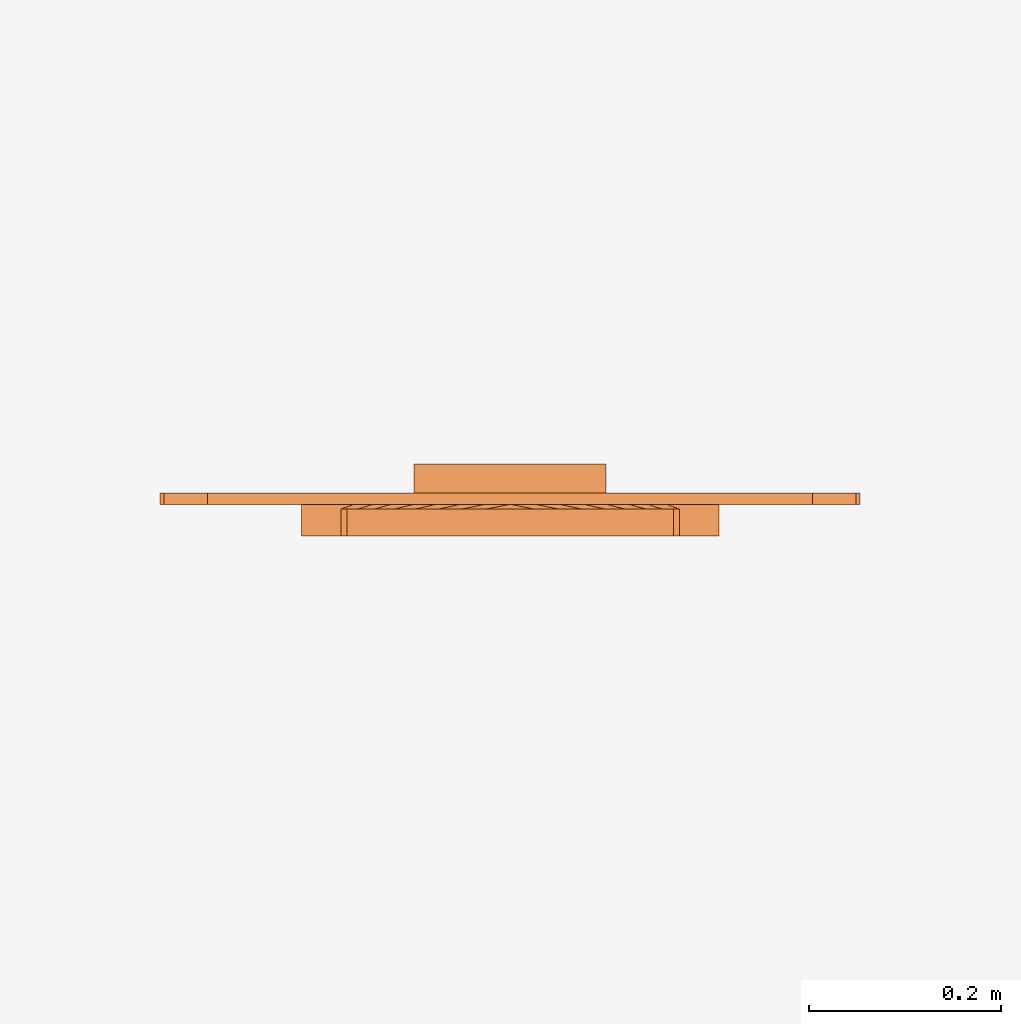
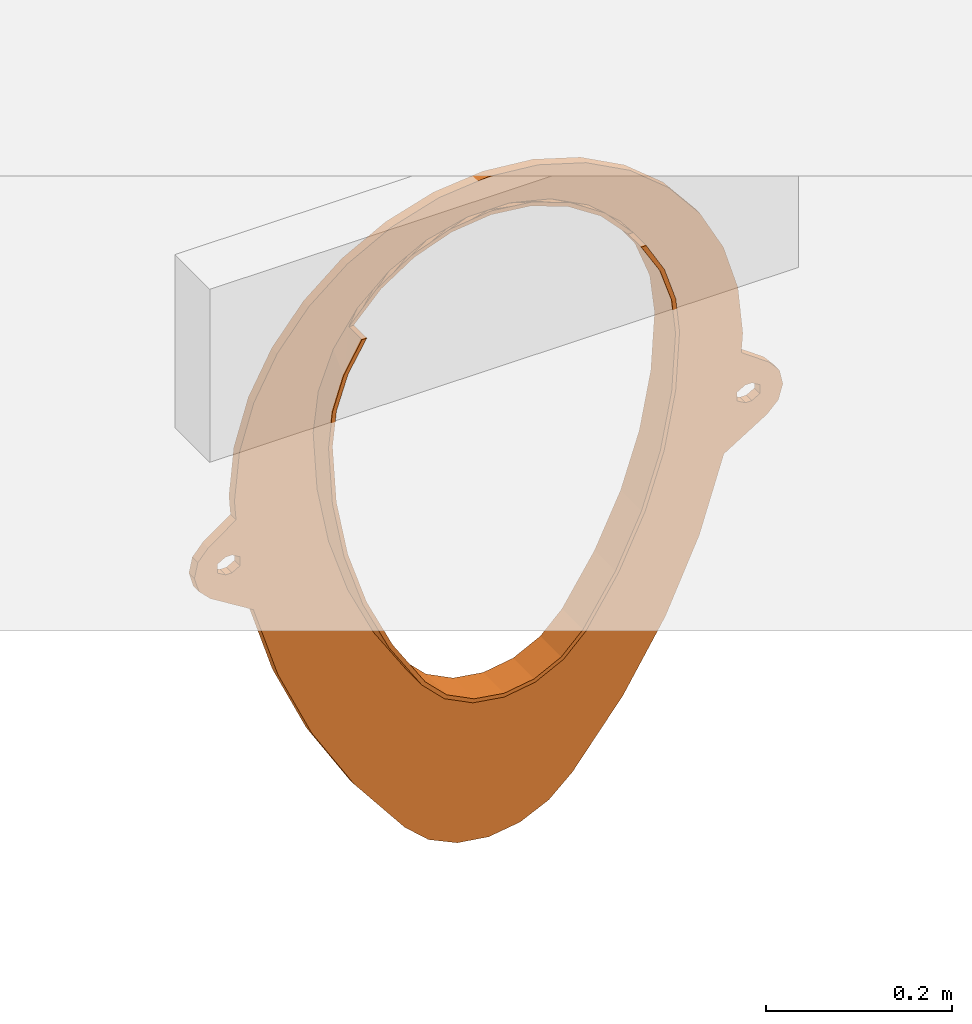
# One storey, part 2 of 2: 1 proxy.
"""IFC2X3 building model written with IfcOpenShell, lengths in millimetres."""

from ifc_helpers import new_model, entity, si_unit, converted_unit, direction, frame, origin, place, context, subcontext, project, spatial, faceted_brep, source, transform, mapped, element, save


model = new_model("IFC2X3")

# Units and contexts
model_context = context("Model", 3, precision=1e-06, world=origin(), true_north=direction((2.0, 6.12303176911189e-17, 1.0)))
context_of_model = context(None, 3, precision=1e-06, world=origin(), true_north=direction((2.0, 6.12303176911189e-17, 1.0)))
body_context = subcontext(model_context, "Body", "Model", "MODEL_VIEW")
ifc_project = project(units=[si_unit("LENGTHUNIT", "METRE", prefix="MILLI"), si_unit("AREAUNIT", "SQUARE_METRE", prefix="MILLI"), si_unit("VOLUMEUNIT", "CUBIC_METRE", prefix="MILLI"), converted_unit("PLANEANGLEUNIT", "DEGREE", entity("IfcRatioMeasure", 0.0174532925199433), si_unit("PLANEANGLEUNIT", "RADIAN"), dimensions=[0, 0, 0, 0, 0, 0, 0]), si_unit("TIMEUNIT", "SECOND")], contexts=[model_context, context_of_model])

# Site, building, storey
site_placement = place(None, origin())
site = spatial("IfcSite", under=ifc_project, at=site_placement, Name="Default", CompositionType="ELEMENT")
building_placement = place(site_placement, origin())
building = spatial("IfcBuilding", under=site, at=building_placement, CompositionType="ELEMENT")
storey_placement = place(building_placement, origin())
storey = spatial("IfcBuildingStorey", under=building, at=storey_placement, Name="Level 1", CompositionType="ELEMENT", Elevation=0.0)

# Proxy
shared_shape = source(origin(), body_context, "Body", "Brep", [
    faceted_brep([(674.274420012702, 45.0, 464.744486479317), (674.274420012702, 33.0, 464.744486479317), (684.314178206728, 33.0, 458.948029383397), (684.314178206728, 45.0, 458.948029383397), (674.274420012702, 45.0, 476.337400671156), (674.274420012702, 33.0, 476.337400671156), (684.314178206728, 33.0, 482.133857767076), (684.314178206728, 45.0, 482.133857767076), (30.1097108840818, 45.0, 464.744486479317), (30.1097108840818, 33.0, 464.744486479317), (40.1494690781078, 33.0, 458.948029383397), (40.1494690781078, 45.0, 458.948029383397), (30.1097108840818, 45.0, 476.337400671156), (30.1097108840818, 33.0, 476.337400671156), (40.1494690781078, 33.0, 482.133857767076), (40.1494690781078, 45.0, 482.133857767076), (14.1686551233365, 33.0, 441.490267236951), (7.16468628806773, 33.0, 448.509967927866), (11.5117162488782, 45.0, 444.153173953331), (21.1726239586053, 45.0, 434.470566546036), (4.37997926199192, 45.0, 458.027172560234), (7.16468628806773, 45.0, 448.509967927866), (4.37997926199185, 33.0, 458.027172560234), (1.59527223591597, 33.0, 467.544377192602), (1.59527223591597, 45.0, 467.544377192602), (12.3242171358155, 33.0, 494.410644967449), (18.8224679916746, 33.0, 501.900939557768), (18.8224679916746, 45.0, 501.900939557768), (9.85912139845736, 45.0, 491.569219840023), (5.82596627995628, 33.0, 486.920350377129), (5.82596627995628, 45.0, 486.920350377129), (3.71061925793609, 45.0, 477.232363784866), (3.71061925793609, 33.0, 477.232363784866), (21.1726239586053, 33.0, 434.470566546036), (172.635398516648, 45.0, 459.542716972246), (195.977715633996, 45.0, 388.746238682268), (74.650996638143, 45.0, 401.247982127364), (58.1892272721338, 45.0, 464.744486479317), (105.09309146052, 45.0, 305.570147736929), (89.8720440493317, 45.0, 353.409064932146), (228.125576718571, 45.0, 321.489119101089), (48.1494690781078, 45.0, 458.948029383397), (58.1892272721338, 45.0, 476.337400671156), (158.476943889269, 45.0, 532.731126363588), (146.952706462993, 45.0, 214.308207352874), (126.022898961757, 45.0, 259.939177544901), (262.274941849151, 45.0, 50.3728583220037), (223.211703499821, 45.0, 99.271568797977), (266.231823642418, 45.0, 154.595272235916), (291.59791997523, 45.0, 24.0683522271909), (266.231823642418, 45.0, 159.595272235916), (199.607572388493, 45.0, 128.818826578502), (173.280139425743, 45.0, 171.563516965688), (327.25985005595, 45.0, 7.33542570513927), (366.231823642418, 45.0, 1.59527223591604), (268.557948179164, 45.0, 258.861421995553), (295.384185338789, 45.0, 232.419334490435), (329.019738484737, 45.0, 215.464082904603), (366.231823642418, 45.0, 209.625272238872), (466.231823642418, 45.0, 159.595272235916), (405.203797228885, 45.0, 7.335425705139), (466.231823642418, 45.0, 154.595272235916), (440.865727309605, 45.0, 24.0683522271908), (53.17934072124, 45.0, 526.456464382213), (48.1494690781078, 45.0, 482.133857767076), (153.731823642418, 45.0, 607.125272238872), (51.2318236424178, 45.0, 551.595272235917), (57.2844603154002, 45.0, 613.048723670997), (75.2097709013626, 45.0, 672.14055343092), (52.1093623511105, 45.0, 539.018414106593), (159.906687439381, 45.0, 657.979850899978), (104.318895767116, 45.0, 726.599895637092), (178.07241819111, 45.0, 705.878946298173), (143.493187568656, 45.0, 774.333908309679), (207.173289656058, 45.0, 748.038837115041), (191.227200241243, 45.0, 813.508200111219), (245.518064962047, 45.0, 782.009343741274), (245.686542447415, 45.0, 842.617324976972), (290.878285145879, 45.0, 805.816223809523), (340.617779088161, 45.0, 818.075907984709), (304.778372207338, 45.0, 860.542635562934), (366.231823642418, 45.0, 866.595272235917), (532.856074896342, 45.0, 128.818826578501), (501.522390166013, 45.0, 89.5958424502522), (470.188705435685, 45.0, 50.3728583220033), (403.443908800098, 45.0, 215.464082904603), (437.079461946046, 45.0, 232.419334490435), (463.905699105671, 45.0, 258.861421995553), (504.338070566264, 45.0, 321.489119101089), (585.510940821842, 45.0, 214.308207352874), (536.485931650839, 45.0, 388.746238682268), (627.370555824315, 45.0, 305.570147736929), (606.440748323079, 45.0, 259.939177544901), (559.183507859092, 45.0, 171.563516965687), (657.812650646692, 45.0, 401.247982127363), (638.836797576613, 45.0, 341.607916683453), (559.828248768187, 45.0, 459.542716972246), (692.314178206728, 45.0, 458.948029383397), (711.29102332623, 45.0, 434.470566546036), (702.353936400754, 45.0, 464.744486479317), (725.298960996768, 45.0, 448.509967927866), (718.294992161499, 45.0, 441.490267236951), (573.986703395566, 45.0, 532.731126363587), (730.86837504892, 45.0, 467.544377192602), (728.083668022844, 45.0, 458.027172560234), (702.353936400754, 45.0, 476.337400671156), (541.236447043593, 45.0, 813.508200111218), (588.97045971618, 45.0, 774.333908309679), (525.290357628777, 45.0, 748.038837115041), (486.945582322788, 45.0, 782.009343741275), (681.231823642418, 45.0, 551.595272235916), (578.731823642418, 45.0, 607.125272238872), (675.179186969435, 45.0, 613.048723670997), (572.556959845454, 45.0, 657.979850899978), (657.253876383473, 45.0, 672.14055343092), (554.391229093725, 45.0, 705.878946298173), (628.14475151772, 45.0, 726.599895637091), (427.685275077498, 45.0, 860.542635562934), (391.845868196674, 45.0, 818.075907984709), (441.585362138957, 45.0, 805.816223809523), (486.777104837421, 45.0, 842.617324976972), (692.314178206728, 45.0, 482.133857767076), (679.284306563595, 45.0, 526.456464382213), (713.641179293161, 45.0, 501.900939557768), (680.354284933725, 45.0, 539.018414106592), (722.604525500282, 45.0, 491.569220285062), (726.637681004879, 45.0, 486.920350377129), (728.7530280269, 45.0, 477.232363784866), (74.6509966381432, 33.0, 401.247982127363), (89.8720440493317, 33.0, 353.409064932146), (191.338452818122, 33.0, 386.881502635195), (167.79681592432, 33.0, 458.282511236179), (58.1892272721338, 33.0, 464.744486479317), (48.1494690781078, 33.0, 458.948029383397), (58.1892272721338, 33.0, 476.337400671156), (153.51746241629, 33.0, 532.095875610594), (105.09309146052, 33.0, 305.570147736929), (126.022898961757, 33.0, 259.939177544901), (223.760824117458, 33.0, 319.050075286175), (199.607572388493, 33.0, 128.818826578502), (230.941257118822, 33.0, 89.5958424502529), (327.488376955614, 33.0, 210.704363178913), (292.468644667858, 33.0, 228.357361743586), (366.231823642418, 33.0, 204.625272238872), (291.59791997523, 33.0, 24.0683522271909), (327.25985005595, 33.0, 7.33542570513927), (366.231823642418, 33.0, 1.59527223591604), (262.274941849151, 33.0, 50.3728583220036), (264.538447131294, 33.0, 255.887600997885), (173.280139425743, 33.0, 171.563516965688), (146.952706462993, 33.0, 214.308207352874), (53.1793407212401, 33.0, 526.456464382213), (48.1494690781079, 33.0, 482.133857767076), (57.2844603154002, 33.0, 613.048723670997), (51.2318236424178, 33.0, 551.595272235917), (148.731823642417, 33.0, 607.125272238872), (75.2097709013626, 33.0, 672.14055343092), (52.1093623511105, 33.0, 539.018414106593), (104.318895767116, 33.0, 726.599895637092), (155.051978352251, 33.0, 659.176429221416), (173.645138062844, 33.0, 708.202562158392), (188.537936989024, 33.0, 729.778506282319), (143.493187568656, 33.0, 774.333908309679), (191.227200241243, 33.0, 813.508200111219), (203.430735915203, 33.0, 751.354450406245), (223.054238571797, 33.0, 768.739356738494), (245.686542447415, 33.0, 842.617324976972), (242.677741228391, 33.0, 786.124263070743), (265.891500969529, 33.0, 798.307784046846), (289.105260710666, 33.0, 810.49130502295), (314.560178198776, 33.0, 816.765378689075), (304.778372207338, 33.0, 860.542635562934), (366.231823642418, 33.0, 866.595272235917), (340.015095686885, 33.0, 823.039452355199), (366.231823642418, 33.0, 823.039452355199), (405.203797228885, 33.0, 7.335425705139), (440.865727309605, 33.0, 24.0683522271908), (470.188705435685, 33.0, 50.3728583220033), (404.975270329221, 33.0, 210.704363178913), (501.522390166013, 33.0, 89.5958424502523), (532.856074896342, 33.0, 128.818826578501), (439.995002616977, 33.0, 228.357361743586), (467.925200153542, 33.0, 255.887600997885), (559.183507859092, 33.0, 171.563516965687), (541.125194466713, 33.0, 386.881502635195), (508.702823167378, 33.0, 319.050075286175), (627.370555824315, 33.0, 305.570147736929), (642.591603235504, 33.0, 353.409064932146), (564.666831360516, 33.0, 458.282511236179), (657.812650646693, 33.0, 401.247982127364), (585.510940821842, 33.0, 214.308207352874), (606.440748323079, 33.0, 259.939177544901), (711.29102332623, 33.0, 434.470566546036), (692.314178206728, 33.0, 458.948029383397), (718.294992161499, 33.0, 441.490267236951), (702.353936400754, 33.0, 464.744486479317), (578.946184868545, 33.0, 532.095875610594), (702.353936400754, 33.0, 476.337400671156), (730.86837504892, 33.0, 467.544377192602), (728.7530280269, 33.0, 477.232363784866), (725.298960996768, 33.0, 448.509967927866), (728.083668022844, 33.0, 458.027172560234), (489.785906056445, 33.0, 786.124263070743), (509.409408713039, 33.0, 768.739356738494), (541.236447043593, 33.0, 813.508200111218), (486.777104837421, 33.0, 842.617324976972), (529.032911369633, 33.0, 751.354450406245), (543.925710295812, 33.0, 729.778506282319), (588.97045971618, 33.0, 774.333908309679), (427.685275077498, 33.0, 860.542635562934), (392.448551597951, 33.0, 823.039452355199), (417.90346908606, 33.0, 816.765378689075), (443.35838657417, 33.0, 810.49130502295), (466.572146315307, 33.0, 798.307784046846), (558.818509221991, 33.0, 708.202562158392), (577.411668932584, 33.0, 659.176429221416), (628.14475151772, 33.0, 726.599895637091), (679.284306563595, 33.0, 526.456464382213), (680.354284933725, 33.0, 539.018414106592), (681.231823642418, 33.0, 551.595272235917), (692.314178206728, 33.0, 482.133857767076), (713.641179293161, 33.0, 501.900939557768), (726.637681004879, 33.0, 486.920350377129), (720.13943014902, 33.0, 494.410644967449), (657.253876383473, 33.0, 672.14055343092), (583.731823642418, 33.0, 607.125272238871), (675.179186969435, 33.0, 613.048723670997), (268.557948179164, 0.0, 258.861421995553), (228.125576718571, 0.0, 321.48911910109), (223.760824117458, 0.0, 319.050075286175), (264.538447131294, 0.0, 255.887600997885), (195.977715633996, 0.0, 388.746238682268), (191.338452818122, 0.0, 386.881502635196), (172.635398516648, 0.0, 459.542716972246), (167.79681592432, 0.0, 458.282511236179), (366.231823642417, 0.0, 209.625272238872), (329.019738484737, 0.0, 215.464082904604), (327.488376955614, 0.0, 210.704363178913), (366.231823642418, 0.0, 204.625272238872), (292.468644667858, 0.0, 228.357361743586), (295.384185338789, 0.0, 232.419334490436), (153.51746241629, 0.0, 532.095875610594), (158.476943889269, 0.0, 532.731126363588), (153.731823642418, 0.0, 607.125272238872), (148.731823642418, 0.0, 607.125272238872), (153.452820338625, 0.0, 652.195725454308), (158.599054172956, 0.0, 652.345655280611), (167.410865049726, 0.0, 695.309604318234), (172.977781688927, 0.0, 695.494527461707), (196.209327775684, 0.0, 734.595272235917), (190.000018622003, 0.0, 734.595272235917), (404.975270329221, 0.0, 210.704363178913), (403.443908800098, 0.0, 215.464082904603), (439.995002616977, 0.0, 228.357361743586), (437.079461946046, 0.0, 232.419334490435), (467.925200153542, 0.0, 255.887600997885), (463.905699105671, 0.0, 258.861421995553), (508.702823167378, 0.0, 319.050075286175), (504.338070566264, 0.0, 321.489119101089), (541.125194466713, 0.0, 386.881502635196), (536.485931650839, 0.0, 388.746238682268), (559.828248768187, 0.0, 459.542716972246), (564.666831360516, 0.0, 458.28251123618), (573.986703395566, 0.0, 532.731126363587), (578.946184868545, 0.0, 532.095875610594), (565.05278223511, 0.0, 695.309604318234), (559.485865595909, 0.0, 695.494527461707), (573.864593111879, 0.0, 652.345655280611), (579.01082694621, 0.0, 652.195725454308), (542.463628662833, 0.0, 734.595272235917), (536.254319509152, 0.0, 734.595272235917), (578.731823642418, 0.0, 607.125272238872), (583.731823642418, 0.0, 607.125272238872), (525.106584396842, 28.0, 753.442028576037), (507.74954013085, 28.0, 772.288784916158), (391.6750435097, 28.0, 821.607032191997), (366.231823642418, 28.0, 824.625272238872), (267.283541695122, 28.0, 800.814423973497), (245.998824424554, 28.0, 786.551604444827), (486.464822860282, 28.0, 786.551604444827), (291.314462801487, 28.0, 809.701608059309), (315.345383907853, 28.0, 818.588792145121), (190.000018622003, 28.0, 734.595272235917), (340.788603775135, 28.0, 821.607032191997), (207.357062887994, 28.0, 753.442028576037), (224.714107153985, 28.0, 772.288784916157), (417.118263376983, 28.0, 818.588792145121), (542.463628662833, 28.0, 734.595272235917), (441.149184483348, 28.0, 809.701608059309), (465.180105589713, 28.0, 800.814423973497), (271.182165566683, 28.0, 797.182664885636), (230.051402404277, 28.0, 770.254493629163), (317.400204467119, 28.0, 813.93852850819), (196.209327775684, 28.0, 734.595272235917), (366.231823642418, 28.0, 819.625272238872), (415.063442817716, 28.0, 813.938528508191), (502.412244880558, 28.0, 770.254493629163), (461.281481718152, 28.0, 797.182664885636), (536.254319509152, 28.0, 734.595272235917), (266.231823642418, 75.0, 154.595272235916), (266.231823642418, 75.0, 159.595272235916), (466.231823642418, 75.0, 159.595272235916), (466.231823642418, 75.0, 154.595272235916)], [[[0, 1, 2, 3]], [[1, 0, 4, 5]], [[6, 5, 4, 7]], [[8, 9, 10, 11]], [[9, 8, 12, 13]], [[14, 13, 12, 15]], [[16, 17, 18, 19]], [[20, 21, 22, 23]], [[21, 17, 22]], [[23, 24, 20]], [[17, 21, 18]], [[25, 26, 27, 28]], [[29, 25, 28, 30]], [[31, 24, 32, 29]], [[16, 19, 33]], [[29, 30, 31]], [[24, 23, 32]], [[19, 18, 8, 11]], [[34, 35, 36, 37]], [[38, 39, 35, 40]], [[36, 19, 41, 37]], [[21, 20, 8, 18]], [[12, 8, 24, 31]], [[41, 19, 11]], [[34, 37, 42, 43]], [[40, 44, 45, 38]], [[46, 47, 48, 49]], [[50, 48, 51, 52]], [[53, 49, 48, 54]], [[55, 50, 44, 40]], [[50, 56, 57]], [[58, 59, 50, 57]], [[56, 50, 55]], [[60, 54, 61, 62]], [[12, 30, 28, 27]], [[15, 12, 27]], [[63, 64, 15, 27]], [[42, 64, 63, 43]], [[65, 66, 67, 68]], [[69, 66, 43, 63]], [[70, 68, 71, 72]], [[65, 68, 70]], [[66, 65, 43]], [[73, 74, 72, 71]], [[74, 73, 75, 76]], [[76, 75, 77, 78]], [[79, 78, 80, 81]], [[77, 80, 78]], [[82, 83, 61, 59]], [[84, 62, 61, 83]], [[59, 85, 86]], [[59, 86, 87]], [[87, 88, 89, 59]], [[88, 90, 91, 92]], [[85, 59, 58]], [[59, 89, 93, 82]], [[94, 95, 90, 96]], [[3, 97, 98, 94]], [[99, 100, 101, 98]], [[0, 3, 94, 96]], [[4, 0, 96, 102]], [[97, 99, 98]], [[103, 104, 99, 105]], [[106, 107, 108, 109]], [[110, 102, 111, 112]], [[111, 113, 114, 112]], [[115, 108, 107, 116]], [[81, 117, 118, 79]], [[119, 118, 117, 120]], [[109, 119, 120, 106]], [[113, 115, 116, 114]], [[121, 7, 122, 123]], [[124, 122, 102, 110]], [[123, 125, 105, 121]], [[126, 127, 105, 125]], [[4, 102, 122, 7]], [[61, 54, 48]], [[9, 17, 16, 33]], [[128, 129, 130, 131]], [[128, 131, 132, 133]], [[33, 128, 133, 10]], [[23, 22, 9, 13]], [[9, 33, 10]], [[134, 132, 131, 135]], [[136, 137, 138, 130]], [[139, 140, 141, 142]], [[143, 144, 145, 146]], [[147, 144, 143, 141]], [[139, 142, 148, 149]], [[148, 138, 150, 149]], [[26, 25, 13, 14]], [[151, 26, 14, 152]], [[29, 32, 13, 25]], [[153, 154, 155, 156]], [[135, 154, 157, 151]], [[158, 156, 159, 160]], [[151, 152, 134, 135]], [[159, 156, 155]], [[135, 155, 154]], [[160, 161, 162, 158]], [[163, 162, 164, 165]], [[166, 163, 167, 168]], [[169, 170, 171, 166]], [[172, 171, 173, 174]], [[175, 176, 143, 146]], [[177, 178, 143, 176]], [[178, 177, 179, 180]], [[181, 178, 180]], [[182, 181, 180, 183]], [[184, 185, 186, 187]], [[188, 184, 189, 1]], [[185, 182, 190, 191]], [[192, 193, 2, 189]], [[192, 194, 195, 193]], [[189, 2, 1]], [[188, 1, 5, 196]], [[197, 195, 198, 199]], [[200, 201, 195, 194]], [[202, 203, 204, 205]], [[206, 207, 208, 204]], [[209, 172, 210, 211]], [[212, 213, 205, 209]], [[214, 215, 216, 208]], [[196, 217, 218, 219]], [[220, 217, 6]], [[220, 197, 221, 217]], [[222, 223, 197, 199]], [[224, 216, 215, 225]], [[226, 224, 225, 219]], [[196, 219, 225]], [[217, 196, 5, 6]], [[124, 110, 219, 218]], [[218, 217, 122, 124]], [[140, 139, 47, 46]], [[149, 150, 44, 52]], [[52, 51, 139, 149]], [[45, 44, 150, 137]], [[139, 51, 47]], [[39, 38, 136, 129]], [[128, 36, 39, 129]], [[137, 136, 38, 45]], [[140, 46, 147]], [[69, 63, 151, 157]], [[157, 154, 66, 69]], [[154, 153, 67, 66]], [[153, 156, 68, 67]], [[156, 158, 71, 68]], [[162, 163, 75, 73]], [[163, 166, 77, 75]], [[158, 162, 73, 71]], [[166, 171, 80, 77]], [[172, 81, 80, 171]], [[120, 205, 204, 106]], [[117, 209, 205, 120]], [[106, 204, 208, 107]], [[114, 224, 226, 112]], [[116, 216, 224, 114]], [[107, 208, 216, 116]], [[112, 226, 219, 110]], [[209, 117, 81, 172]], [[62, 176, 175, 60]], [[60, 175, 146, 54]], [[62, 84, 177, 176]], [[53, 145, 144, 49]], [[49, 144, 147, 46]], [[145, 53, 54, 146]], [[187, 186, 95, 94]], [[191, 190, 89, 92]], [[186, 91, 95]], [[187, 94, 189]], [[186, 191, 92, 91]], [[93, 89, 190, 183]], [[84, 83, 179, 177]], [[180, 179, 83, 82]], [[183, 180, 82, 93]], [[36, 128, 33, 19]], [[27, 26, 151, 63]], [[41, 11, 10, 133]], [[134, 152, 64, 42]], [[132, 134, 42, 37]], [[133, 132, 37, 41]], [[152, 14, 15, 64]], [[217, 221, 123, 122]], [[98, 192, 189, 94]], [[223, 222, 125, 123]], [[199, 198, 103, 127]], [[222, 126, 125]], [[223, 123, 221]], [[222, 199, 127, 126]], [[104, 103, 198, 201]], [[98, 101, 194, 192]], [[200, 194, 101, 100]], [[201, 200, 100, 104]], [[105, 197, 220, 121]], [[197, 105, 99, 195]], [[97, 193, 195, 99]], [[6, 7, 121, 220]], [[3, 2, 193, 97]], [[227, 228, 229, 230]], [[228, 231, 232, 229]], [[232, 231, 233, 234]], [[235, 236, 237, 238]], [[239, 237, 236, 240]], [[240, 227, 230, 239]], [[241, 242, 243, 244]], [[242, 241, 234, 233]], [[245, 244, 243, 246]], [[247, 245, 246, 248]], [[248, 249, 250, 247]], [[251, 252, 235, 238]], [[253, 254, 252, 251]], [[254, 253, 255, 256]], [[256, 255, 257, 258]], [[259, 260, 258, 257]], [[261, 260, 259, 262]], [[263, 261, 262, 264]], [[265, 266, 267, 268]], [[269, 270, 266, 265]], [[271, 263, 264, 272]], [[268, 267, 271, 272]], [[245, 155, 244]], [[247, 159, 245]], [[273, 203, 274]], [[275, 174, 276]], [[277, 168, 278]], [[213, 279, 202]], [[170, 280, 281]], [[247, 250, 282]], [[173, 281, 283]], [[161, 160, 282, 164]], [[160, 159, 247]], [[155, 245, 159]], [[247, 282, 160]], [[203, 273, 206]], [[284, 165, 164]], [[285, 165, 284]], [[281, 173, 170]], [[167, 278, 168]], [[170, 169, 280]], [[276, 174, 283]], [[275, 286, 210]], [[287, 214, 207, 206]], [[202, 279, 274]], [[288, 289, 212]], [[211, 288, 212]], [[288, 211, 286]], [[265, 268, 215]], [[287, 269, 265]], [[169, 277, 280]], [[277, 169, 168]], [[225, 268, 272]], [[164, 282, 284]], [[210, 286, 211]], [[174, 275, 210]], [[203, 202, 274]], [[212, 289, 213]], [[167, 285, 278]], [[287, 265, 214]], [[214, 265, 215]], [[268, 225, 215]], [[285, 167, 165]], [[206, 273, 287]], [[279, 213, 289]], [[174, 173, 283]], [[230, 229, 138, 148]], [[229, 232, 130, 138]], [[130, 232, 234, 131]], [[234, 241, 135, 131]], [[135, 241, 244, 155]], [[181, 253, 251, 178]], [[178, 251, 238, 143]], [[181, 182, 255, 253]], [[141, 237, 239, 142]], [[142, 239, 230, 148]], [[237, 141, 143, 238]], [[272, 264, 196, 225]], [[264, 262, 188, 196]], [[184, 188, 262, 259]], [[259, 257, 185, 184]], [[257, 255, 182, 185]], [[243, 65, 246]], [[246, 70, 248]], [[76, 290, 291]], [[290, 78, 292]], [[293, 249, 248]], [[74, 293, 72]], [[248, 70, 72]], [[70, 246, 65]], [[72, 293, 248]], [[76, 291, 74]], [[74, 291, 293]], [[290, 76, 78]], [[78, 79, 292]], [[79, 294, 292]], [[118, 295, 294]], [[296, 297, 109]], [[119, 297, 295]], [[113, 267, 266]], [[266, 270, 298]], [[271, 267, 111]], [[119, 295, 118]], [[296, 109, 108]], [[109, 297, 119]], [[108, 115, 298]], [[115, 266, 298]], [[113, 266, 115]], [[113, 111, 267]], [[298, 296, 108]], [[79, 118, 294]], [[40, 228, 227, 55]], [[35, 231, 228, 40]], [[233, 231, 35, 34]], [[43, 242, 233, 34]], [[243, 242, 43, 65]], [[235, 252, 85, 58]], [[87, 86, 254, 256]], [[252, 254, 86, 85]], [[240, 236, 57, 56]], [[227, 240, 56, 55]], [[58, 57, 236, 235]], [[102, 263, 271, 111]], [[96, 261, 263, 102]], [[261, 96, 90, 260]], [[88, 258, 260, 90]], [[87, 256, 258, 88]], [[299, 48, 50, 300]], [[300, 50, 59, 301]], [[61, 302, 301, 59]], [[299, 302, 61, 48]], [[299, 300, 301, 302]], [[298, 287, 273, 274]], [[296, 274, 279, 289]], [[298, 274, 296]], [[297, 289, 288, 286]], [[296, 289, 297]], [[295, 286, 275, 276]], [[297, 286, 295]], [[294, 295, 276]], [[277, 278, 291, 290]], [[293, 291, 285, 284]], [[276, 283, 292, 294]], [[281, 280, 290, 292]], [[282, 250, 249, 293]], [[270, 269, 287, 298]], [[35, 39, 36]], [[8, 20, 24]], [[48, 47, 51]], [[50, 52, 44]], [[12, 31, 30]], [[90, 95, 91]], [[99, 104, 100]], [[88, 92, 89]], [[105, 127, 103]], [[130, 129, 136]], [[9, 22, 17]], [[138, 137, 150]], [[141, 140, 147]], [[13, 32, 23]], [[162, 161, 164]], [[163, 165, 167]], [[166, 168, 169]], [[171, 170, 173]], [[182, 183, 190]], [[184, 187, 189]], [[195, 201, 198]], [[185, 191, 186]], [[204, 203, 206]], [[208, 207, 214]], [[172, 174, 210]], [[209, 211, 212]], [[205, 213, 202]], [[197, 223, 221]], [[291, 278, 285]], [[293, 284, 282]], [[292, 283, 281]], [[290, 280, 277]]]),
])
proxy_placement = place(storey_placement, frame((-13505.2687393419, 1196.17957171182, -1039.89527223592)))
element("IfcBuildingElementProxy", 1, at=proxy_placement, inside=storey, Name="550-700 Step Connector:550-700 Step Connector:550-700 Step Connector", ObjectType="550-700 Step Connector", CompositionType="ELEMENT", context=body_context, shape_type="MappedRepresentation", body=[
    mapped(shared_shape, transform((0.0, 0.0, 0.0), scale=1.0)),
])

save(model, "model.ifc")
